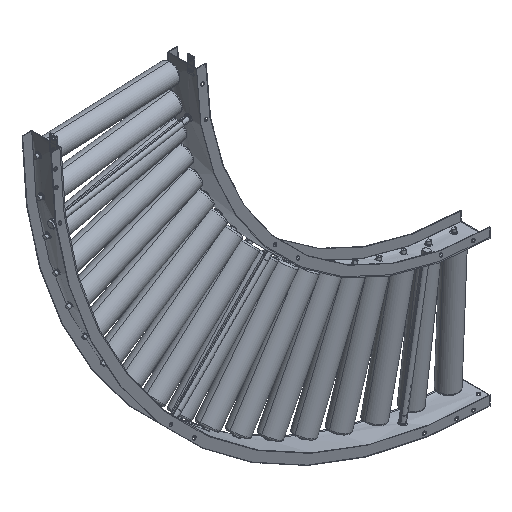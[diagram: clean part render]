
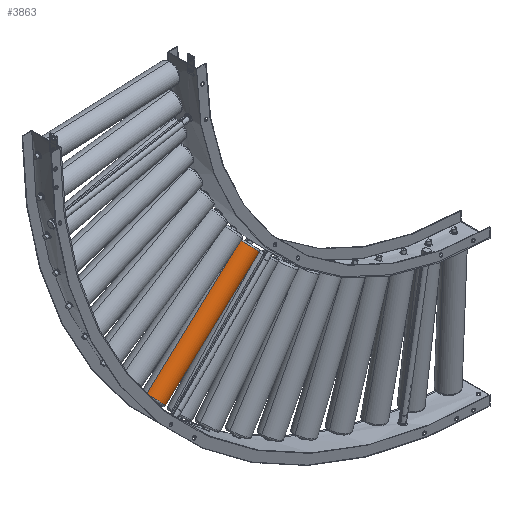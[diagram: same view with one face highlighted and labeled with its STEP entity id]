
A CAD part, isometric view. The second image highlights one B-rep face of the part: STEP entity #3863.
In plain terms, the highlighted cylindrical face has radius 30.25 mm (diameter 60.5 mm), a partial arc.
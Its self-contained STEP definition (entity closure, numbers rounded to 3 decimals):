
#900 = CARTESIAN_POINT ( 'NONE',  ( -47.876, 46.699, -166.476 ) ) ;
#1388 = AXIS2_PLACEMENT_3D ( 'NONE', #900, #24606, #9129 ) ;
#1960 = CARTESIAN_POINT ( 'NONE',  ( -64.626, 46.699, -140.795 ) ) ;
#3636 = EDGE_CURVE ( 'NONE', #18889, #7504, #21091, .T. ) ;
#3863 = ADVANCED_FACE ( 'NONE', ( #8841 ), #4755, .T. ) ;
#4755 = CYLINDRICAL_SURFACE ( 'NONE', #23343, 30.25 ) ;
#5093 = ORIENTED_EDGE ( 'NONE', *, *, #3636, .T. ) ;
#5691 = AXIS2_PLACEMENT_3D ( 'NONE', #24207, #11147, #24344 ) ;
#7504 = VERTEX_POINT ( 'NONE', #9896 ) ;
#7631 = VECTOR ( 'NONE', #12738, 1000. ) ;
#8705 = DIRECTION ( 'NONE',  ( -0.676, 0., 0.737 ) ) ;
#8841 = FACE_OUTER_BOUND ( 'NONE', #18220, .T. ) ;
#8971 = EDGE_CURVE ( 'NONE', #10231, #7504, #26088, .T. ) ;
#9129 = DIRECTION ( 'NONE',  ( 0.676, 0., -0.737 ) ) ;
#9301 = EDGE_CURVE ( 'NONE', #11313, #18889, #11023, .T. ) ;
#9896 = CARTESIAN_POINT ( 'NONE',  ( -314.977, 46.699, -452.259 ) ) ;
#10013 = ORIENTED_EDGE ( 'NONE', *, *, #9301, .T. ) ;
#10231 = VERTEX_POINT ( 'NONE', #25212 ) ;
#11023 = LINE ( 'NONE', #1960, #7631 ) ;
#11147 = DIRECTION ( 'NONE',  ( 0.737, 0., 0.676 ) ) ;
#11309 = ORIENTED_EDGE ( 'NONE', *, *, #8971, .F. ) ;
#11313 = VERTEX_POINT ( 'NONE', #12029 ) ;
#12029 = CARTESIAN_POINT ( 'NONE',  ( -68.312, 46.699, -144.173 ) ) ;
#12738 = DIRECTION ( 'NONE',  ( -0.737, 0., -0.676 ) ) ;
#13616 = ORIENTED_EDGE ( 'NONE', *, *, #26592, .T. ) ;
#14984 = CIRCLE ( 'NONE', #1388, 30.25 ) ;
#18220 = EDGE_LOOP ( 'NONE', ( #11309, #13616, #10013, #5093 ) ) ;
#18889 = VERTEX_POINT ( 'NONE', #22613 ) ;
#21091 = CIRCLE ( 'NONE', #5691, 30.25 ) ;
#21434 = CARTESIAN_POINT ( 'NONE',  ( -23.753, 46.699, -185.401 ) ) ;
#21684 = VECTOR ( 'NONE', #25670, 1000. ) ;
#22613 = CARTESIAN_POINT ( 'NONE',  ( -355.85, 46.699, -407.654 ) ) ;
#23343 = AXIS2_PLACEMENT_3D ( 'NONE', #24311, #26158, #8705 ) ;
#24207 = CARTESIAN_POINT ( 'NONE',  ( -335.414, 46.699, -429.956 ) ) ;
#24311 = CARTESIAN_POINT ( 'NONE',  ( -44.189, 46.699, -163.098 ) ) ;
#24344 = DIRECTION ( 'NONE',  ( 0.676, 0., -0.737 ) ) ;
#24606 = DIRECTION ( 'NONE',  ( -0.737, 0., -0.676 ) ) ;
#25212 = CARTESIAN_POINT ( 'NONE',  ( -27.439, 46.699, -188.779 ) ) ;
#25670 = DIRECTION ( 'NONE',  ( -0.737, 0., -0.676 ) ) ;
#26088 = LINE ( 'NONE', #21434, #21684 ) ;
#26158 = DIRECTION ( 'NONE',  ( -0.737, 0., -0.676 ) ) ;
#26592 = EDGE_CURVE ( 'NONE', #10231, #11313, #14984, .T. ) ;
